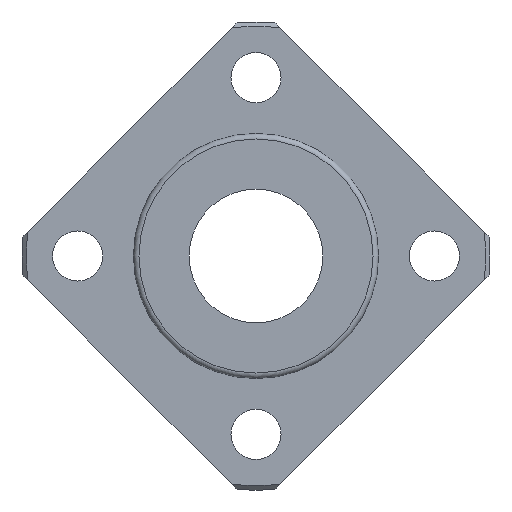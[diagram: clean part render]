
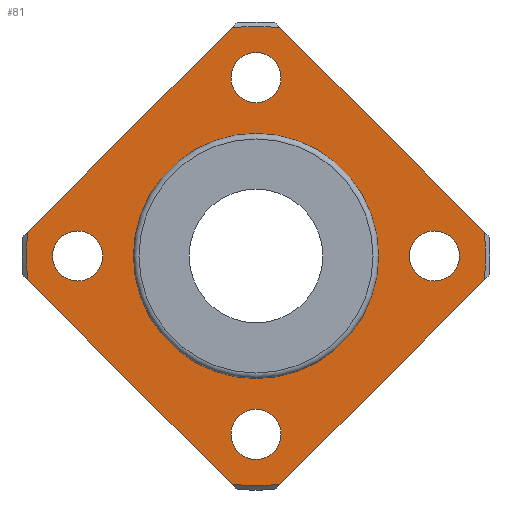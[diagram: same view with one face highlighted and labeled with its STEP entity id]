
A CAD part, left-side view. The second image highlights one B-rep face of the part: STEP entity #81.
In plain terms, the highlighted planar face has unit normal (-1, 0, 0).
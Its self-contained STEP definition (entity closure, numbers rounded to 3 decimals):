
#81=ADVANCED_FACE('',(#130,#131,#132,#133,#134,#135),#136,.T.);
#130=FACE_BOUND('',#230,.T.);
#131=FACE_BOUND('',#231,.T.);
#132=FACE_BOUND('',#232,.T.);
#133=FACE_BOUND('',#233,.T.);
#134=FACE_OUTER_BOUND('',#234,.T.);
#135=FACE_BOUND('',#235,.T.);
#136=PLANE('',#236);
#230=EDGE_LOOP('',(#342));
#231=EDGE_LOOP('',(#343));
#232=EDGE_LOOP('',(#344));
#233=EDGE_LOOP('',(#345));
#234=EDGE_LOOP('',(#346,#347,#348,#349,#350,#351,#352,#353));
#235=EDGE_LOOP('',(#354));
#236=AXIS2_PLACEMENT_3D('',#355,#356,#357);
#342=ORIENTED_EDGE('',*,*,#569,.F.);
#343=ORIENTED_EDGE('',*,*,#570,.F.);
#344=ORIENTED_EDGE('',*,*,#571,.F.);
#345=ORIENTED_EDGE('',*,*,#572,.F.);
#346=ORIENTED_EDGE('',*,*,#573,.T.);
#347=ORIENTED_EDGE('',*,*,#574,.T.);
#348=ORIENTED_EDGE('',*,*,#575,.T.);
#349=ORIENTED_EDGE('',*,*,#576,.T.);
#350=ORIENTED_EDGE('',*,*,#577,.T.);
#351=ORIENTED_EDGE('',*,*,#578,.T.);
#352=ORIENTED_EDGE('',*,*,#579,.T.);
#353=ORIENTED_EDGE('',*,*,#580,.T.);
#354=ORIENTED_EDGE('',*,*,#568,.F.);
#355=CARTESIAN_POINT('',(-6.0,15.625,0.0));
#356=DIRECTION('',(-1.0,0.0,0.));
#357=DIRECTION('',(0.,0.0,1.0));
#568=EDGE_CURVE('',#645,#645,#646,.T.);
#569=EDGE_CURVE('',#647,#647,#648,.T.);
#570=EDGE_CURVE('',#649,#649,#650,.T.);
#571=EDGE_CURVE('',#651,#651,#652,.T.);
#572=EDGE_CURVE('',#653,#653,#654,.T.);
#573=EDGE_CURVE('',#655,#656,#657,.T.);
#574=EDGE_CURVE('',#656,#658,#659,.T.);
#575=EDGE_CURVE('',#658,#660,#661,.T.);
#576=EDGE_CURVE('',#660,#662,#663,.T.);
#577=EDGE_CURVE('',#662,#664,#665,.T.);
#578=EDGE_CURVE('',#664,#666,#667,.T.);
#579=EDGE_CURVE('',#666,#668,#669,.T.);
#580=EDGE_CURVE('',#668,#655,#670,.T.);
#645=VERTEX_POINT('',#771);
#646=CIRCLE('',#772,10.65);
#647=VERTEX_POINT('',#773);
#648=CIRCLE('',#774,2.25);
#649=VERTEX_POINT('',#775);
#650=CIRCLE('',#776,2.25);
#651=VERTEX_POINT('',#777);
#652=CIRCLE('',#778,2.25);
#653=VERTEX_POINT('',#779);
#654=CIRCLE('',#780,2.25);
#655=VERTEX_POINT('',#781);
#656=VERTEX_POINT('',#782);
#657=LINE('',#783,#784);
#658=VERTEX_POINT('',#785);
#659=CIRCLE('',#786,20.6);
#660=VERTEX_POINT('',#787);
#661=LINE('',#788,#789);
#662=VERTEX_POINT('',#790);
#663=CIRCLE('',#791,20.6);
#664=VERTEX_POINT('',#792);
#665=LINE('',#793,#794);
#666=VERTEX_POINT('',#795);
#667=CIRCLE('',#796,20.6);
#668=VERTEX_POINT('',#797);
#669=LINE('',#798,#799);
#670=CIRCLE('',#800,20.6);
#771=CARTESIAN_POINT('',(-6.0,10.65,0.0));
#772=AXIS2_PLACEMENT_3D('',#1063,#1064,#1065);
#773=CARTESIAN_POINT('',(-6.0,-16.0,2.25));
#774=AXIS2_PLACEMENT_3D('',#1066,#1067,#1068);
#775=CARTESIAN_POINT('',(-6.0,0.,-13.75));
#776=AXIS2_PLACEMENT_3D('',#1069,#1070,#1071);
#777=CARTESIAN_POINT('',(-6.0,16.0,2.25));
#778=AXIS2_PLACEMENT_3D('',#1072,#1073,#1074);
#779=CARTESIAN_POINT('',(-6.0,0.0,18.25));
#780=AXIS2_PLACEMENT_3D('',#1075,#1076,#1077);
#781=CARTESIAN_POINT('',(-6.0,-2.139,-20.489));
#782=CARTESIAN_POINT('',(-6.0,-20.489,-2.139));
#783=CARTESIAN_POINT('',(-6.0,-12.216,-10.411));
#784=VECTOR('',#1078,1.0);
#785=CARTESIAN_POINT('',(-6.0,-20.489,2.139));
#786=AXIS2_PLACEMENT_3D('',#1079,#1080,#1081);
#787=CARTESIAN_POINT('',(-6.0,-2.139,20.489));
#788=CARTESIAN_POINT('',(-6.0,-12.216,10.411));
#789=VECTOR('',#1082,1.0);
#790=CARTESIAN_POINT('',(-6.0,2.139,20.489));
#791=AXIS2_PLACEMENT_3D('',#1083,#1084,#1085);
#792=CARTESIAN_POINT('',(-6.0,20.489,2.139));
#793=CARTESIAN_POINT('',(-6.0,20.029,2.599));
#794=VECTOR('',#1086,1.0);
#795=CARTESIAN_POINT('',(-6.0,20.489,-2.139));
#796=AXIS2_PLACEMENT_3D('',#1087,#1088,#1089);
#797=CARTESIAN_POINT('',(-6.0,2.139,-20.489));
#798=CARTESIAN_POINT('',(-6.0,20.029,-2.599));
#799=VECTOR('',#1090,1.0);
#800=AXIS2_PLACEMENT_3D('',#1091,#1092,#1093);
#1063=CARTESIAN_POINT('',(-6.0,0.0,0.0));
#1064=DIRECTION('',(-1.0,0.0,0.));
#1065=DIRECTION('',(0.0,1.0,0.0));
#1066=CARTESIAN_POINT('',(-6.0,-16.0,0.));
#1067=DIRECTION('',(-1.0,0.0,0.));
#1068=DIRECTION('',(0.,0.0,1.0));
#1069=CARTESIAN_POINT('',(-6.0,0.,-16.0));
#1070=DIRECTION('',(-1.0,0.0,0.));
#1071=DIRECTION('',(0.,0.0,1.0));
#1072=CARTESIAN_POINT('',(-6.0,16.0,0.));
#1073=DIRECTION('',(-1.0,0.0,0.));
#1074=DIRECTION('',(0.,0.0,1.0));
#1075=CARTESIAN_POINT('',(-6.0,0.0,16.0));
#1076=DIRECTION('',(-1.0,0.0,0.));
#1077=DIRECTION('',(0.,0.0,1.0));
#1078=DIRECTION('',(0.,-0.707,0.707));
#1079=CARTESIAN_POINT('',(-6.0,0.0,0.0));
#1080=DIRECTION('',(-1.0,0.0,0.));
#1081=DIRECTION('',(0.0,1.0,0.0));
#1082=DIRECTION('',(0.,0.707,0.707));
#1083=CARTESIAN_POINT('',(-6.0,0.0,0.0));
#1084=DIRECTION('',(-1.0,0.0,0.));
#1085=DIRECTION('',(0.0,1.0,0.0));
#1086=DIRECTION('',(0.,0.707,-0.707));
#1087=CARTESIAN_POINT('',(-6.0,0.0,0.0));
#1088=DIRECTION('',(-1.0,0.0,0.));
#1089=DIRECTION('',(0.0,1.0,0.0));
#1090=DIRECTION('',(0.,-0.707,-0.707));
#1091=CARTESIAN_POINT('',(-6.0,0.0,0.0));
#1092=DIRECTION('',(-1.0,0.0,0.));
#1093=DIRECTION('',(0.0,1.0,0.0));
